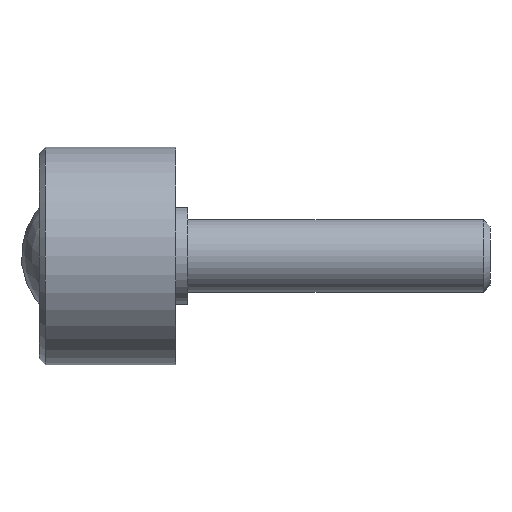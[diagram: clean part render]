
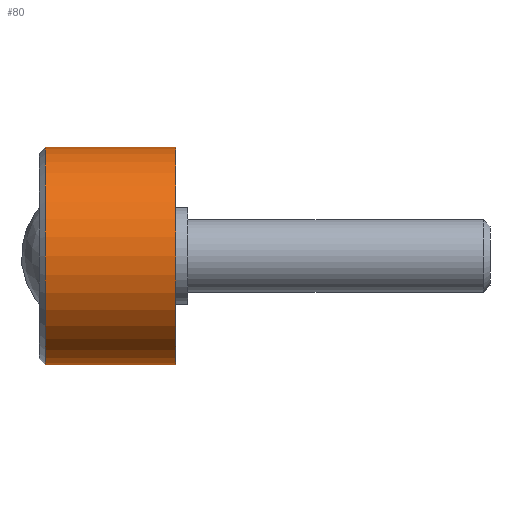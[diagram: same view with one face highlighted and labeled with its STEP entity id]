
A CAD part, left-side view. The second image highlights one B-rep face of the part: STEP entity #80.
In plain terms, the highlighted cylindrical face has radius 18 mm (diameter 36 mm), a full revolution.
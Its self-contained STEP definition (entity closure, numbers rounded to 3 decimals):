
#80 = ADVANCED_FACE( '', ( #105, #106, #107 ), #108, .T. );
#105 = FACE_OUTER_BOUND( '', #146, .T. );
#106 = FACE_BOUND( '', #147, .T. );
#107 = FACE_OUTER_BOUND( '', #148, .T. );
#108 = CYLINDRICAL_SURFACE( '', #149, 18. );
#146 = EDGE_LOOP( '', ( #197 ) );
#147 = EDGE_LOOP( '', ( #198 ) );
#148 = EDGE_LOOP( '', ( #199 ) );
#149 = AXIS2_PLACEMENT_3D( '', #200, #201, #202 );
#197 = ORIENTED_EDGE( '', *, *, #246, .F. );
#198 = ORIENTED_EDGE( '', *, *, #247, .F. );
#199 = ORIENTED_EDGE( '', *, *, #248, .T. );
#200 = CARTESIAN_POINT( '', ( 0., 0., 0. ) );
#201 = DIRECTION( '', ( 0., 1., 0. ) );
#202 = DIRECTION( '', ( 0., 0., -1. ) );
#246 = EDGE_CURVE( '', #265, #265, #266, .T. );
#247 = EDGE_CURVE( '', #267, #267, #268, .T. );
#248 = EDGE_CURVE( '', #269, #269, #270, .T. );
#265 = VERTEX_POINT( '', #291 );
#266 = CIRCLE( '', #292, 18. );
#267 = VERTEX_POINT( '', #293 );
#268 = B_SPLINE_CURVE_WITH_KNOTS( '', 3, ( #294, #295, #296, #297, #298, #299, #300, #301, #302, #303, #304, #305, #306, #307, #308, #309, #310, #311, #312, #313, #314, #315, #316, #317, #318, #319, #320, #321, #322, #323, #324, #325, #326, #327, #328, #329, #330, #331, #332, #333, #334, #335, #336, #337, #338, #339, #340, #341, #342, #343, #344, #345, #346, #347, #348, #349, #350, #351, #352, #353, #354, #355, #356, #357, #358, #359, #360, #361, #362, #363, #364, #365, #366, #367 ), .UNSPECIFIED., .T., .F., ( 2, 2, 2, 2, 2, 2, 2, 2, 2, 2, 2, 2, 2, 2, 2, 2, 2, 2, 2, 2, 2, 2, 2, 2, 2, 2, 2, 2, 2, 2, 2, 2, 2, 2, 2, 2, 2, 2, 2 ), ( -0.001, 0., 0.001, 0.002, 0.003, 0.004, 0.005, 0.006, 0.006, 0.007, 0.008, 0.009, 0.01, 0.011, 0.012, 0.013, 0.014, 0.015, 0.015, 0.016, 0.017, 0.018, 0.019, 0.02, 0.021, 0.022, 0.023, 0.023, 0.024, 0.025, 0.026, 0.027, 0.027, 0.028, 0.028, 0.029, 0.03, 0.031, 0.032 ), .UNSPECIFIED. );
#269 = VERTEX_POINT( '', #368 );
#270 = CIRCLE( '', #369, 18. );
#291 = CARTESIAN_POINT( '', ( 0., 2., -18. ) );
#292 = AXIS2_PLACEMENT_3D( '', #395, #396, #397 );
#293 = CARTESIAN_POINT( '', ( 17.292, 15., 5. ) );
#294 = CARTESIAN_POINT( '', ( 17.292, 15.332, 5. ) );
#295 = CARTESIAN_POINT( '', ( 17.292, 14.668, 5. ) );
#296 = CARTESIAN_POINT( '', ( 17.301, 14.342, 4.967 ) );
#297 = CARTESIAN_POINT( '', ( 17.337, 13.701, 4.839 ) );
#298 = CARTESIAN_POINT( '', ( 17.365, 13.382, 4.742 ) );
#299 = CARTESIAN_POINT( '', ( 17.431, 12.778, 4.491 ) );
#300 = CARTESIAN_POINT( '', ( 17.471, 12.491, 4.337 ) );
#301 = CARTESIAN_POINT( '', ( 17.557, 11.949, 3.974 ) );
#302 = CARTESIAN_POINT( '', ( 17.603, 11.693, 3.765 ) );
#303 = CARTESIAN_POINT( '', ( 17.695, 11.235, 3.306 ) );
#304 = CARTESIAN_POINT( '', ( 17.741, 11.028, 3.055 ) );
#305 = CARTESIAN_POINT( '', ( 17.826, 10.663, 2.509 ) );
#306 = CARTESIAN_POINT( '', ( 17.865, 10.508, 2.221 ) );
#307 = CARTESIAN_POINT( '', ( 17.913, 10.321, 1.77 ) );
#308 = CARTESIAN_POINT( '', ( 17.928, 10.266, 1.616 ) );
#309 = CARTESIAN_POINT( '', ( 17.953, 10.17, 1.303 ) );
#310 = CARTESIAN_POINT( '', ( 17.965, 10.129, 1.141 ) );
#311 = CARTESIAN_POINT( '', ( 17.991, 10.032, 0.657 ) );
#312 = CARTESIAN_POINT( '', ( 18., 10., 0.331 ) );
#313 = CARTESIAN_POINT( '', ( 18., 10., -0.325 ) );
#314 = CARTESIAN_POINT( '', ( 17.991, 10.033, -0.658 ) );
#315 = CARTESIAN_POINT( '', ( 17.956, 10.161, -1.301 ) );
#316 = CARTESIAN_POINT( '', ( 17.93, 10.256, -1.613 ) );
#317 = CARTESIAN_POINT( '', ( 17.865, 10.508, -2.221 ) );
#318 = CARTESIAN_POINT( '', ( 17.826, 10.664, -2.511 ) );
#319 = CARTESIAN_POINT( '', ( 17.742, 11.025, -3.051 ) );
#320 = CARTESIAN_POINT( '', ( 17.696, 11.234, -3.305 ) );
#321 = CARTESIAN_POINT( '', ( 17.603, 11.696, -3.767 ) );
#322 = CARTESIAN_POINT( '', ( 17.557, 11.947, -3.973 ) );
#323 = CARTESIAN_POINT( '', ( 17.471, 12.487, -4.335 ) );
#324 = CARTESIAN_POINT( '', ( 17.431, 12.779, -4.492 ) );
#325 = CARTESIAN_POINT( '', ( 17.365, 13.382, -4.742 ) );
#326 = CARTESIAN_POINT( '', ( 17.338, 13.694, -4.838 ) );
#327 = CARTESIAN_POINT( '', ( 17.31, 14.177, -4.935 ) );
#328 = CARTESIAN_POINT( '', ( 17.303, 14.342, -4.959 ) );
#329 = CARTESIAN_POINT( '', ( 17.294, 14.67, -4.992 ) );
#330 = CARTESIAN_POINT( '', ( 17.292, 14.834, -5. ) );
#331 = CARTESIAN_POINT( '', ( 17.292, 15.325, -5. ) );
#332 = CARTESIAN_POINT( '', ( 17.301, 15.652, -4.968 ) );
#333 = CARTESIAN_POINT( '', ( 17.338, 16.302, -4.839 ) );
#334 = CARTESIAN_POINT( '', ( 17.364, 16.615, -4.743 ) );
#335 = CARTESIAN_POINT( '', ( 17.431, 17.217, -4.493 ) );
#336 = CARTESIAN_POINT( '', ( 17.471, 17.51, -4.337 ) );
#337 = CARTESIAN_POINT( '', ( 17.557, 18.052, -3.974 ) );
#338 = CARTESIAN_POINT( '', ( 17.603, 18.302, -3.768 ) );
#339 = CARTESIAN_POINT( '', ( 17.695, 18.764, -3.308 ) );
#340 = CARTESIAN_POINT( '', ( 17.741, 18.973, -3.052 ) );
#341 = CARTESIAN_POINT( '', ( 17.826, 19.335, -2.513 ) );
#342 = CARTESIAN_POINT( '', ( 17.864, 19.489, -2.226 ) );
#343 = CARTESIAN_POINT( '', ( 17.93, 19.743, -1.617 ) );
#344 = CARTESIAN_POINT( '', ( 17.956, 19.838, -1.303 ) );
#345 = CARTESIAN_POINT( '', ( 17.982, 19.934, -0.823 ) );
#346 = CARTESIAN_POINT( '', ( 17.989, 19.959, -0.661 ) );
#347 = CARTESIAN_POINT( '', ( 17.998, 19.992, -0.333 ) );
#348 = CARTESIAN_POINT( '', ( 18., 20., -0.167 ) );
#349 = CARTESIAN_POINT( '', ( 18., 20., 0.328 ) );
#350 = CARTESIAN_POINT( '', ( 17.991, 19.968, 0.653 ) );
#351 = CARTESIAN_POINT( '', ( 17.956, 19.84, 1.297 ) );
#352 = CARTESIAN_POINT( '', ( 17.93, 19.743, 1.616 ) );
#353 = CARTESIAN_POINT( '', ( 17.865, 19.493, 2.219 ) );
#354 = CARTESIAN_POINT( '', ( 17.827, 19.339, 2.506 ) );
#355 = CARTESIAN_POINT( '', ( 17.741, 18.974, 3.052 ) );
#356 = CARTESIAN_POINT( '', ( 17.696, 18.766, 3.304 ) );
#357 = CARTESIAN_POINT( '', ( 17.627, 18.423, 3.649 ) );
#358 = CARTESIAN_POINT( '', ( 17.604, 18.302, 3.758 ) );
#359 = CARTESIAN_POINT( '', ( 17.558, 18.05, 3.965 ) );
#360 = CARTESIAN_POINT( '', ( 17.536, 17.918, 4.064 ) );
#361 = CARTESIAN_POINT( '', ( 17.471, 17.51, 4.336 ) );
#362 = CARTESIAN_POINT( '', ( 17.431, 17.224, 4.49 ) );
#363 = CARTESIAN_POINT( '', ( 17.365, 16.622, 4.741 ) );
#364 = CARTESIAN_POINT( '', ( 17.338, 16.303, 4.838 ) );
#365 = CARTESIAN_POINT( '', ( 17.301, 15.659, 4.967 ) );
#366 = CARTESIAN_POINT( '', ( 17.292, 15.332, 5. ) );
#367 = CARTESIAN_POINT( '', ( 17.292, 14.668, 5. ) );
#368 = CARTESIAN_POINT( '', ( 0., 23.5, -18. ) );
#369 = AXIS2_PLACEMENT_3D( '', #398, #399, #400 );
#395 = CARTESIAN_POINT( '', ( 0., 2., 0. ) );
#396 = DIRECTION( '', ( 0., -1., 0. ) );
#397 = DIRECTION( '', ( 0., 0., -1. ) );
#398 = CARTESIAN_POINT( '', ( 0., 23.5, 0. ) );
#399 = DIRECTION( '', ( 0., -1., 0. ) );
#400 = DIRECTION( '', ( 0., 0., -1. ) );
